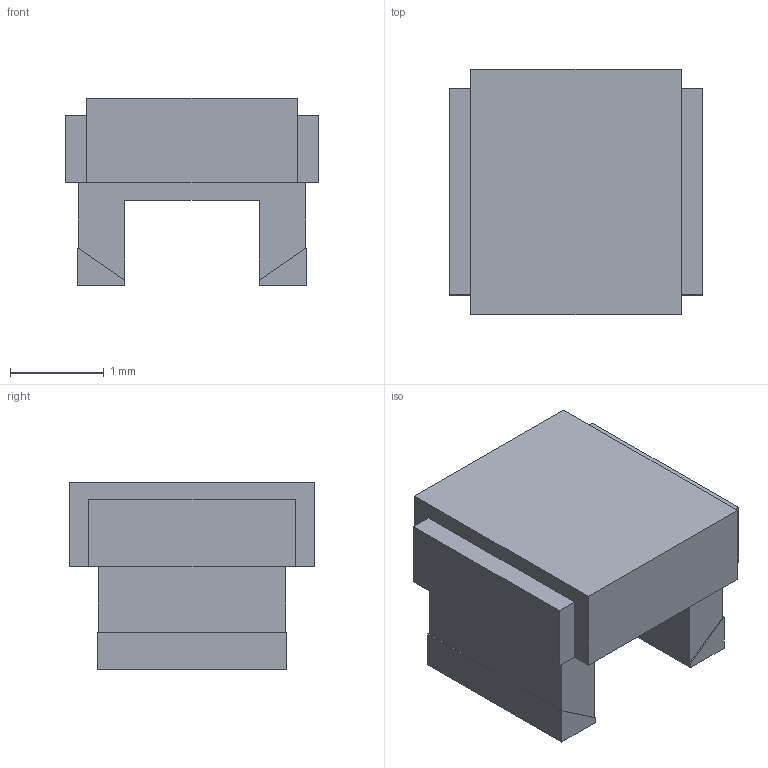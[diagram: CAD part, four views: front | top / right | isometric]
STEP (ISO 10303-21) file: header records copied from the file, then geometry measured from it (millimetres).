
FILE_DESCRIPTION(('STEP AP203'), '1');
FILE_NAME('ÊIF 2520 (1008)', '', ('UNSPECIFIED'), ('UNSPECIFIED'), 'ASCON STEP Converter 1.6', 'ASCON Math Kernel', '');
FILE_SCHEMA(('CONFIG_CONTROL_DESIGN'));
Length unit declared in the file: millimetre
Assembly tree (1 placements, depth 2):
  (unnamed)
    (unnamed)
Bounding box: 2.7 x 2.62 x 2 mm (x, y, z)
Volume: 8.8 mm3; surface area: 34.4 mm2
Topology: 1 solids, 2 shells, 56 faces, 149 edges, 98 vertices
Faces by surface type: plane 52, cylinder 4
Entity records: 2253 total; most frequent: CARTESIAN_POINT 305, ORIENTED_EDGE 298, DIRECTION 273, EDGE_CURVE 149, LINE 141, VECTOR 141, VERTEX_POINT 98, AXIS2_PLACEMENT_3D 66
